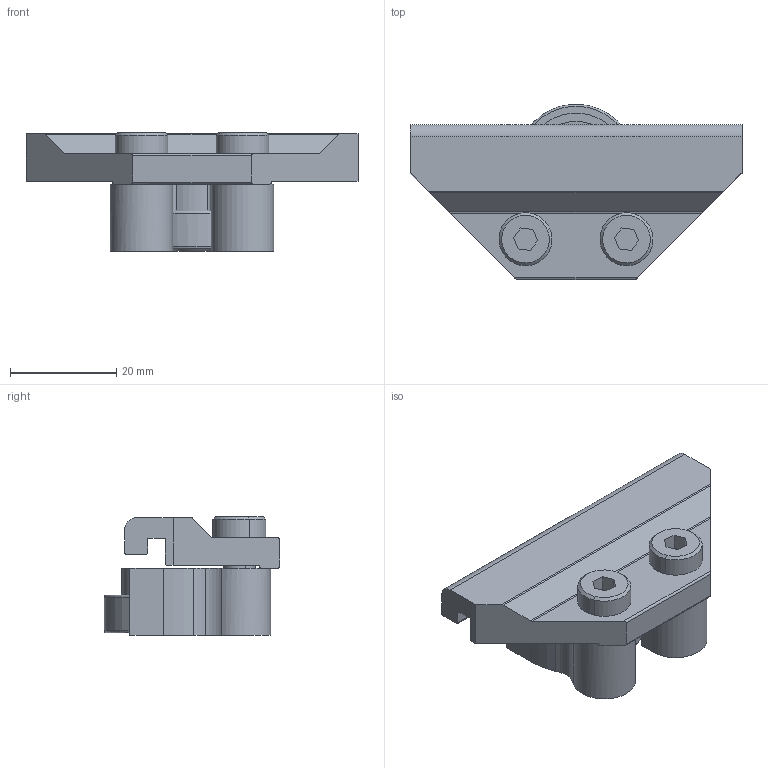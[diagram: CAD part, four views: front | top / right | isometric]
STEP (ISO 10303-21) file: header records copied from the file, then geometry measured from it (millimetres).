
FILE_DESCRIPTION((''),'2;1');
FILE_NAME('206521_ASM','2023-02-27T',('jenni.wallner'),(''),'PRO/ENGINEER BY PARAMETRIC TECHNOLOGY CORPORATION, 2012420','PRO/ENGINEER BY PARAMETRIC TECHNOLOGY CORPORATION, 2012420','');
FILE_SCHEMA(('CONFIG_CONTROL_DESIGN'));
Length unit declared in the file: inch
Products named in the file (7): 913-100; 9506XXM_950616M; 802-027; 240825; 205977_205978_205979_205979; ASM0001_ASM; 206521_ASM
Assembly tree (7 placements, depth 3):
  206521_ASM
    ASM0001_ASM
      913-100
      9506XXM_950616M  x2
      802-027
      240825
      205977_205978_205979_205979
Bounding box: 62.61 x 33.04 x 22.41 mm (x, y, z)
Volume: 17672.7 mm3; surface area: 10945.4 mm2
Topology: 6 solids, 6 shells, 131 faces, 337 edges, 224 vertices
Faces by surface type: plane 56, cylinder 55, cone 12, torus 8
Entity records: 3824 total; most frequent: DIRECTION 691, CARTESIAN_POINT 669, ORIENTED_EDGE 598, EDGE_CURVE 299, AXIS2_PLACEMENT_3D 269, VERTEX_POINT 200, VECTOR 153, LINE 153
